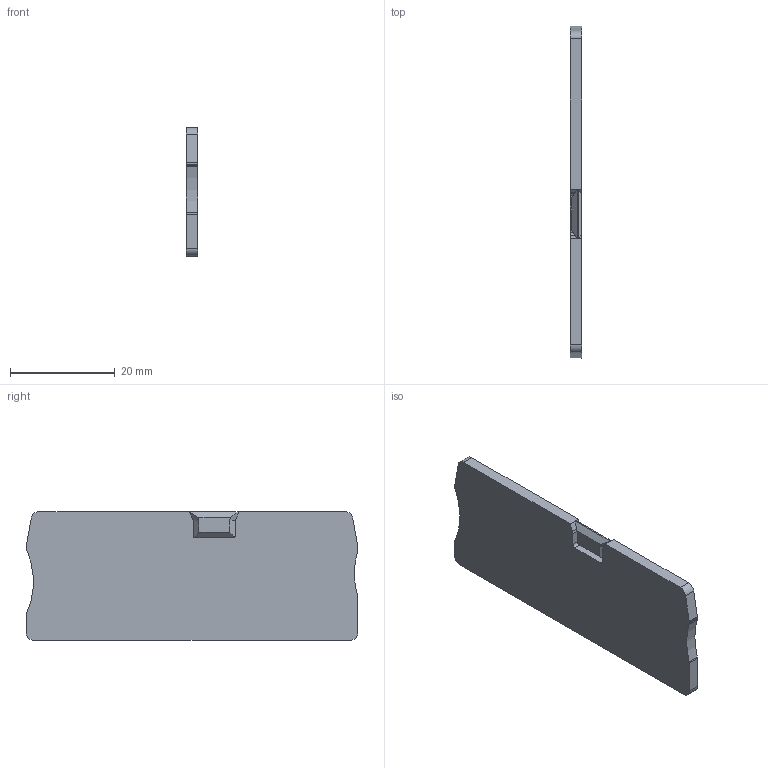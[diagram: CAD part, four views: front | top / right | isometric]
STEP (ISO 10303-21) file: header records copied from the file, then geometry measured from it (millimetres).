
FILE_DESCRIPTION (( 'STEP AP214' ), '1' );
FILE_NAME ('D-VPR-1.5-QUATTRO.STEP', '2026-03-30T14:04:35', ( '' ), ( '' ), 'SwSTEP 2.0', 'SolidWorks 2022', '' );
FILE_SCHEMA (( 'AUTOMOTIVE_DESIGN' ));
Length unit declared in the file: millimetre
Products named in the file (1): D-VPR-1.5-QUATTRO
Bounding box: 2.2 x 63.3 x 24.5 mm (x, y, z)
Volume: 3320.7 mm3; surface area: 3459.1 mm2
Topology: 1 solids, 1 shells, 53 faces, 149 edges, 98 vertices
Faces by surface type: plane 34, cylinder 19
Entity records: 1736 total; most frequent: CARTESIAN_POINT 352, ORIENTED_EDGE 298, DIRECTION 270, EDGE_CURVE 149, LINE 102, VECTOR 102, VERTEX_POINT 98, AXIS2_PLACEMENT_3D 84
